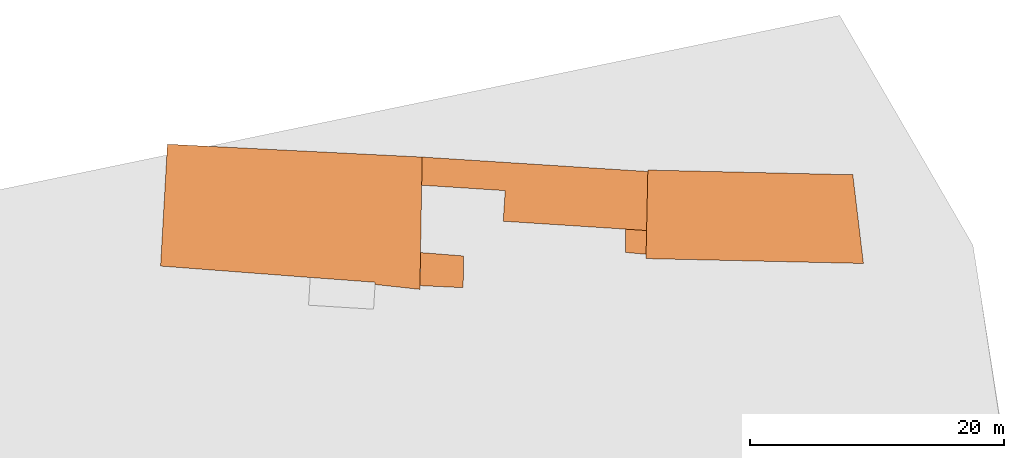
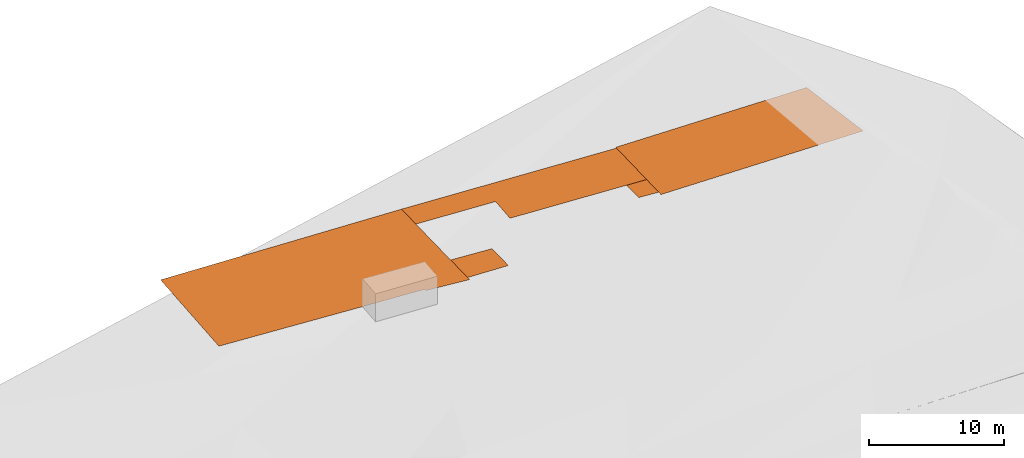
# One storey, part 2 of 2: 5 proxies.
"""IFC2X3 building model written with IfcOpenShell, lengths in millimetres."""

from ifc_helpers import new_model, entity, si_unit, converted_unit, frame, origin, origin_with_axes, place, context, subcontext, project, spatial, open_shell, surface_model, material, element, save


model = new_model("IFC2X3")

# Units and contexts
model_context = context("Model", 3, precision=1e-05, world=origin())
body_context = subcontext(model_context, "Body", "Model", "MODEL_VIEW")
ifc_project = project(units=[si_unit("LENGTHUNIT", "METRE", prefix="MILLI"), converted_unit("PLANEANGLEUNIT", "DEGREE", entity("IfcPlaneAngleMeasure", 0.0174532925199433), si_unit("PLANEANGLEUNIT", "RADIAN"), dimensions=[0, 0, 0, 0, 0, 0, 0]), si_unit("AREAUNIT", "SQUARE_METRE"), si_unit("VOLUMEUNIT", "CUBIC_METRE")], contexts=[model_context])

# Building, storey
building_placement = place(None, origin())
building = spatial("IfcBuilding", under=ifc_project, at=building_placement, Name="Gebäude", CompositionType="ELEMENT")
storey_placement = place(building_placement, origin_with_axes())
storey = spatial("IfcBuildingStorey", under=building, at=storey_placement, Name="Allgemein", CompositionType="ELEMENT")

# Proxies
ifc_material_1 = material(Name="<Unnamed Material>")
proxy_1_placement = place(storey_placement, frame((166189.872770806, 145166.9398951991, -0.01), z_axis=(0.0, 0.0, 1.0), x_axis=(1.0, 0.0, 0.0)))
element("IfcBuildingElementProxy", 1, at=proxy_1_placement, inside=storey, material=ifc_material_1, Name="3D Element", context=body_context, shape_type="SurfaceModel", body=[
    surface_model("IfcShellBasedSurfaceModel", [(17121.79805079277, 0.01000000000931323, 0.01), (0.01000000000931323, 384.1489521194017, 0.01), (144.6796965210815, 7241.972053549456, 0.01), (171.150072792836, 7356.964745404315, 0.01), (16285.76219738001, 6986.612110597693, 0.01)], [open_shell([[[0, 1, 2, 3, 4]]], orient=[[False]])]),
])
ifc_material_2 = material(Name="<Unnamed Material>")
proxy_2_placement = place(storey_placement, frame((164562.8372045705, 145891.2654648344, -0.01), z_axis=(0.0, 0.0, 1.0), x_axis=(1.0, 0.0, 0.0)))
element("IfcBuildingElementProxy", 2, at=proxy_2_placement, inside=storey, material=ifc_material_2, Name="3D Element", context=body_context, shape_type="SurfaceModel", body=[
    surface_model("IfcShellBasedSurfaceModel", [(1634.549241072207, 0.009999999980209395, 0.01), (0.01000000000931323, 146.3068514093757, 0.01), (24.02602425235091, 1976.256941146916, 0.01), (1673.736559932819, 1869.566173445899, 0.01)], [open_shell([[[0, 1, 2, 3]]], orient=[[False]])]),
])
ifc_material_3 = material(Name="<Unnamed Material>")
proxy_3_placement = place(storey_placement, frame((148529.3252547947, 147760.8216382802, -0.01), z_axis=(0.0, 0.0, 1.0), x_axis=(1.0, 0.0, 0.0)))
element("IfcBuildingElementProxy", 3, at=proxy_3_placement, inside=storey, material=ifc_material_3, Name="3D Element", context=body_context, shape_type="SurfaceModel", body=[
    surface_model("IfcShellBasedSurfaceModel", [(17707.24850970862, 0.01000000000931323, 0.01), (6419.400355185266, 732.117289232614, 0.01), (6575.7359133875, 3141.348123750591, 0.01), (0.01000000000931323, 3566.894638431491, 0.01), (36.77899174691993, 5787.027994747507, 0.01), (17805.22721253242, 4648.090310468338, 0.01)], [open_shell([[[0, 1, 2, 3, 4, 5]]], orient=[[False]])]),
])
ifc_material_4 = material(Name="<Unnamed Material>")
proxy_4_placement = place(storey_placement, frame((148398.3541218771, 143260.7569539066, -0.01), z_axis=(0.0, 0.0, 1.0), x_axis=(1.0, 0.0, 0.0)))
element("IfcBuildingElementProxy", 4, at=proxy_4_placement, inside=storey, material=ifc_material_4, Name="3D Element", context=body_context, shape_type="SurfaceModel", body=[
    surface_model("IfcShellBasedSurfaceModel", [(3396.587060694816, 0.009999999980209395, 0.01), (3426.929131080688, 2499.812634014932, 0.01), (43.33586696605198, 2767.459093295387, 0.01), (0.01000000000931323, 161.7704780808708, 0.01)], [open_shell([[[0, 1, 2, 3]]], orient=[[False]])]),
])
ifc_material_5 = material(Name="<Unnamed Material>")
proxy_5_placement = place(storey_placement, frame((127969.1185337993, 143128.1782595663, -0.01), z_axis=(0.0, 0.0, 1.0), x_axis=(1.0, 0.0, 0.0)))
element("IfcBuildingElementProxy", 5, at=proxy_5_placement, inside=storey, material=ifc_material_5, Name="3D Element", context=body_context, shape_type="SurfaceModel", body=[
    surface_model("IfcShellBasedSurfaceModel", [(20419.16087182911, 0.009999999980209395, 0.01), (16891.5493427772, 382.9004582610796, 0.01), (16902.237720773, 556.1243844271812, 0.01), (11750.76075624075, 938.4680097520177, 0.01), (0.00999999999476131, 1833.262212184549, 0.01), (541.2327100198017, 11428.39050617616, 0.01), (20596.98571274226, 10419.67137346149, 0.01)], [open_shell([[[0, 1, 2, 3, 4, 5, 6]]], orient=[[False]])]),
])

save(model, "model.ifc")
